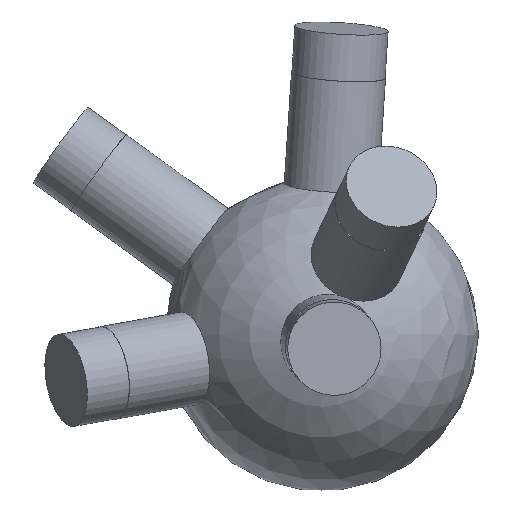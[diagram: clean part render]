
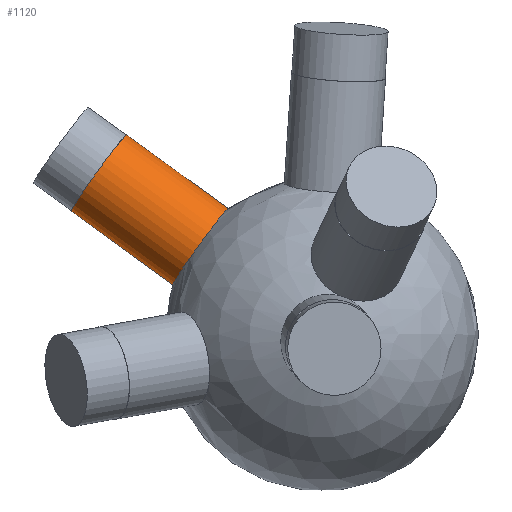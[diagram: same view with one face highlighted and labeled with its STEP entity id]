
A CAD part, top view. The second image highlights one B-rep face of the part: STEP entity #1120.
In plain terms, the highlighted cylindrical face has radius 6 mm (diameter 12 mm), a full revolution.
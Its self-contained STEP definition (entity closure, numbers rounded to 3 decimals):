
#33 = SPHERICAL_SURFACE('',#34,20.);
#34 = AXIS2_PLACEMENT_3D('',#35,#36,#37);
#35 = CARTESIAN_POINT('',(0.,0.,0.));
#36 = DIRECTION('',(0.,0.,1.));
#37 = DIRECTION('',(1.,0.,-0.));
#659 = EDGE_CURVE('',#660,#660,#662,.T.);
#660 = VERTEX_POINT('',#661);
#661 = CARTESIAN_POINT('',(-18.948,6.343,
    -0.864));
#662 = SURFACE_CURVE('',#663,(#668,#730),.PCURVE_S1.);
#663 = CIRCLE('',#664,6.);
#664 = AXIS2_PLACEMENT_3D('',#665,#666,#667);
#665 = CARTESIAN_POINT('',(-15.423,11.198,
    -0.864));
#666 = DIRECTION('',(-0.808,0.587,-0.045)
  );
#667 = DIRECTION('',(-0.588,-0.809,0.
    ));
#668 = PCURVE('',#33,#669);
#669 = DEFINITIONAL_REPRESENTATION('',(#670),#729);
#670 = B_SPLINE_CURVE_WITH_KNOTS('',8,(#671,#672,#673,#674,#675,#676,
    #677,#678,#679,#680,#681,#682,#683,#684,#685,#686,#687,#688,#689,
    #690,#691,#692,#693,#694,#695,#696,#697,#698,#699,#700,#701,#702,
    #703,#704,#705,#706,#707,#708,#709,#710,#711,#712,#713,#714,#715,
    #716,#717,#718,#719,#720,#721,#722,#723,#724,#725,#726,#727,#728),
  .UNSPECIFIED.,.F.,.F.,(9,7,7,7,7,7,7,7,9),(0.,0.785,
    1.473,2.074,3.126,3.915,
    4.507,5.395,6.283),.UNSPECIFIED.);
#671 = CARTESIAN_POINT('',(2.819,-0.043));
#672 = CARTESIAN_POINT('',(2.818,-0.014));
#673 = CARTESIAN_POINT('',(2.815,0.016));
#674 = CARTESIAN_POINT('',(2.808,0.045));
#675 = CARTESIAN_POINT('',(2.798,0.073));
#676 = CARTESIAN_POINT('',(2.785,0.1));
#677 = CARTESIAN_POINT('',(2.77,0.125));
#678 = CARTESIAN_POINT('',(2.751,0.148));
#679 = CARTESIAN_POINT('',(2.712,0.188));
#680 = CARTESIAN_POINT('',(2.692,0.205));
#681 = CARTESIAN_POINT('',(2.67,0.219));
#682 = CARTESIAN_POINT('',(2.647,0.232));
#683 = CARTESIAN_POINT('',(2.622,0.242));
#684 = CARTESIAN_POINT('',(2.597,0.25));
#685 = CARTESIAN_POINT('',(2.571,0.255));
#686 = CARTESIAN_POINT('',(2.521,0.26));
#687 = CARTESIAN_POINT('',(2.497,0.26));
#688 = CARTESIAN_POINT('',(2.474,0.259));
#689 = CARTESIAN_POINT('',(2.451,0.255));
#690 = CARTESIAN_POINT('',(2.428,0.249));
#691 = CARTESIAN_POINT('',(2.406,0.242));
#692 = CARTESIAN_POINT('',(2.385,0.232));
#693 = CARTESIAN_POINT('',(2.33,0.202));
#694 = CARTESIAN_POINT('',(2.298,0.177));
#695 = CARTESIAN_POINT('',(2.27,0.148));
#696 = CARTESIAN_POINT('',(2.247,0.114));
#697 = CARTESIAN_POINT('',(2.229,0.078));
#698 = CARTESIAN_POINT('',(2.217,0.04));
#699 = CARTESIAN_POINT('',(2.21,0.001));
#700 = CARTESIAN_POINT('',(2.208,-0.068));
#701 = CARTESIAN_POINT('',(2.21,-0.098));
#702 = CARTESIAN_POINT('',(2.216,-0.127));
#703 = CARTESIAN_POINT('',(2.225,-0.156));
#704 = CARTESIAN_POINT('',(2.236,-0.183));
#705 = CARTESIAN_POINT('',(2.251,-0.209));
#706 = CARTESIAN_POINT('',(2.269,-0.234));
#707 = CARTESIAN_POINT('',(2.305,-0.272));
#708 = CARTESIAN_POINT('',(2.322,-0.287));
#709 = CARTESIAN_POINT('',(2.341,-0.301));
#710 = CARTESIAN_POINT('',(2.361,-0.313));
#711 = CARTESIAN_POINT('',(2.381,-0.323));
#712 = CARTESIAN_POINT('',(2.403,-0.332));
#713 = CARTESIAN_POINT('',(2.426,-0.339));
#714 = CARTESIAN_POINT('',(2.483,-0.351));
#715 = CARTESIAN_POINT('',(2.519,-0.353));
#716 = CARTESIAN_POINT('',(2.555,-0.352));
#717 = CARTESIAN_POINT('',(2.59,-0.345));
#718 = CARTESIAN_POINT('',(2.624,-0.335));
#719 = CARTESIAN_POINT('',(2.656,-0.32));
#720 = CARTESIAN_POINT('',(2.686,-0.301));
#721 = CARTESIAN_POINT('',(2.738,-0.257));
#722 = CARTESIAN_POINT('',(2.761,-0.232));
#723 = CARTESIAN_POINT('',(2.78,-0.205));
#724 = CARTESIAN_POINT('',(2.796,-0.174));
#725 = CARTESIAN_POINT('',(2.808,-0.143));
#726 = CARTESIAN_POINT('',(2.815,-0.11));
#727 = CARTESIAN_POINT('',(2.819,-0.077));
#728 = CARTESIAN_POINT('',(2.819,-0.043));
#729 = ( GEOMETRIC_REPRESENTATION_CONTEXT(2) 
PARAMETRIC_REPRESENTATION_CONTEXT() REPRESENTATION_CONTEXT('2D SPACE',''
  ) );
#730 = PCURVE('',#731,#736);
#731 = CYLINDRICAL_SURFACE('',#732,6.);
#732 = AXIS2_PLACEMENT_3D('',#733,#734,#735);
#733 = CARTESIAN_POINT('',(0.,0.,0.));
#734 = DIRECTION('',(-0.808,0.587,-0.045)
  );
#735 = DIRECTION('',(-0.588,-0.809,0.
    ));
#736 = DEFINITIONAL_REPRESENTATION('',(#737),#741);
#737 = LINE('',#738,#739);
#738 = CARTESIAN_POINT('',(0.,19.079));
#739 = VECTOR('',#740,1.);
#740 = DIRECTION('',(1.,0.));
#741 = ( GEOMETRIC_REPRESENTATION_CONTEXT(2) 
PARAMETRIC_REPRESENTATION_CONTEXT() REPRESENTATION_CONTEXT('2D SPACE',''
  ) );
#1120 = ADVANCED_FACE('',(#1121),#731,.T.);
#1121 = FACE_BOUND('',#1122,.T.);
#1122 = EDGE_LOOP('',(#1123,#1146,#1173,#1174));
#1123 = ORIENTED_EDGE('',*,*,#1124,.T.);
#1124 = EDGE_CURVE('',#660,#1125,#1127,.T.);
#1125 = VERTEX_POINT('',#1126);
#1126 = CARTESIAN_POINT('',(-31.894,15.742,
    -1.59));
#1127 = SEAM_CURVE('',#1128,(#1132,#1139),.PCURVE_S1.);
#1128 = LINE('',#1129,#1130);
#1129 = CARTESIAN_POINT('',(-3.525,-4.855,
    0.));
#1130 = VECTOR('',#1131,1.);
#1131 = DIRECTION('',(-0.808,0.587,-0.045)
  );
#1132 = PCURVE('',#731,#1133);
#1133 = DEFINITIONAL_REPRESENTATION('',(#1134),#1138);
#1134 = LINE('',#1135,#1136);
#1135 = CARTESIAN_POINT('',(6.283,-0.));
#1136 = VECTOR('',#1137,1.);
#1137 = DIRECTION('',(0.,1.));
#1138 = ( GEOMETRIC_REPRESENTATION_CONTEXT(2) 
PARAMETRIC_REPRESENTATION_CONTEXT() REPRESENTATION_CONTEXT('2D SPACE',''
  ) );
#1139 = PCURVE('',#731,#1140);
#1140 = DEFINITIONAL_REPRESENTATION('',(#1141),#1145);
#1141 = LINE('',#1142,#1143);
#1142 = CARTESIAN_POINT('',(0.,-0.));
#1143 = VECTOR('',#1144,1.);
#1144 = DIRECTION('',(0.,1.));
#1145 = ( GEOMETRIC_REPRESENTATION_CONTEXT(2) 
PARAMETRIC_REPRESENTATION_CONTEXT() REPRESENTATION_CONTEXT('2D SPACE',''
  ) );
#1146 = ORIENTED_EDGE('',*,*,#1147,.F.);
#1147 = EDGE_CURVE('',#1125,#1125,#1148,.T.);
#1148 = SURFACE_CURVE('',#1149,(#1154,#1161),.PCURVE_S1.);
#1149 = CIRCLE('',#1150,6.);
#1150 = AXIS2_PLACEMENT_3D('',#1151,#1152,#1153);
#1151 = CARTESIAN_POINT('',(-28.369,20.598,
    -1.59));
#1152 = DIRECTION('',(-0.808,0.587,-0.045)
  );
#1153 = DIRECTION('',(-0.588,-0.809,
    0.));
#1154 = PCURVE('',#731,#1155);
#1155 = DEFINITIONAL_REPRESENTATION('',(#1156),#1160);
#1156 = LINE('',#1157,#1158);
#1157 = CARTESIAN_POINT('',(0.,35.094));
#1158 = VECTOR('',#1159,1.);
#1159 = DIRECTION('',(1.,0.));
#1160 = ( GEOMETRIC_REPRESENTATION_CONTEXT(2) 
PARAMETRIC_REPRESENTATION_CONTEXT() REPRESENTATION_CONTEXT('2D SPACE',''
  ) );
#1161 = PCURVE('',#1162,#1167);
#1162 = PLANE('',#1163);
#1163 = AXIS2_PLACEMENT_3D('',#1164,#1165,#1166);
#1164 = CARTESIAN_POINT('',(-28.369,20.598,
    -1.59));
#1165 = DIRECTION('',(-0.808,0.587,-0.045)
  );
#1166 = DIRECTION('',(-0.588,-0.809,
    0.));
#1167 = DEFINITIONAL_REPRESENTATION('',(#1168),#1172);
#1168 = CIRCLE('',#1169,6.);
#1169 = AXIS2_PLACEMENT_2D('',#1170,#1171);
#1170 = CARTESIAN_POINT('',(0.,0.));
#1171 = DIRECTION('',(1.,0.));
#1172 = ( GEOMETRIC_REPRESENTATION_CONTEXT(2) 
PARAMETRIC_REPRESENTATION_CONTEXT() REPRESENTATION_CONTEXT('2D SPACE',''
  ) );
#1173 = ORIENTED_EDGE('',*,*,#1124,.F.);
#1174 = ORIENTED_EDGE('',*,*,#659,.T.);
